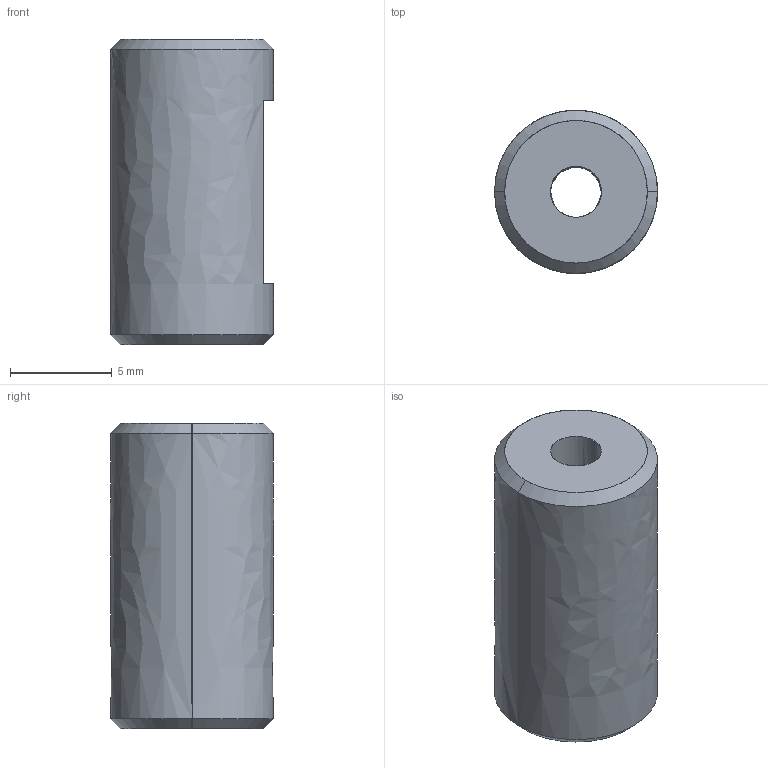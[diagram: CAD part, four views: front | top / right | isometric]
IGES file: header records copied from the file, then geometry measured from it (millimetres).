
Start section: SolidWorks IGES file using analytic representation for surfaces
Global section: file name: C:\Documents and Settings\CAD53\デスクトップ\IGES\N01868-105-0.IGS; native system: SolidWorks 2005 by SolidWorks Corporation; preprocessor: SolidWorks 2005 by SolidWorks Corporation; author: CAD53; date: 070530.114606; units: millimetre
Bounding box: 8 x 8 x 15 mm (x, y, z)
Surface area: 581.3 mm2 (no closed solid volume)
Topology: 0 solids, 0 shells, 15 faces, 262 edges, 262 vertices
Faces by surface type: revolution 10, bspline 5
